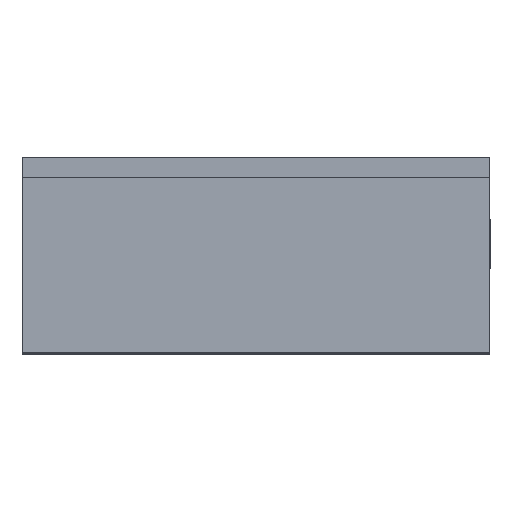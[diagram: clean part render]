
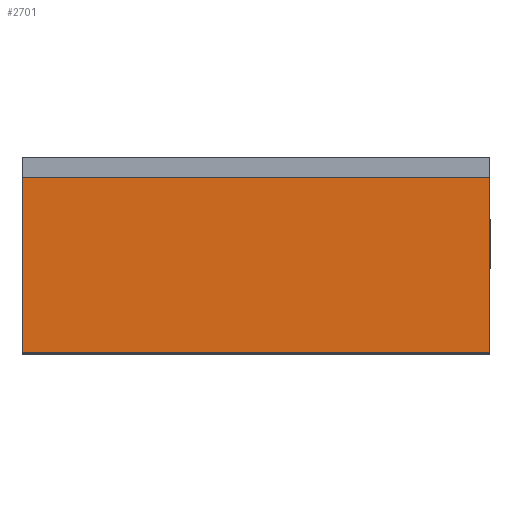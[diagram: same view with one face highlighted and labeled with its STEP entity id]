
A CAD part, top view. The second image highlights one B-rep face of the part: STEP entity #2701.
In plain terms, the highlighted planar face has unit normal (0, 0, 1).
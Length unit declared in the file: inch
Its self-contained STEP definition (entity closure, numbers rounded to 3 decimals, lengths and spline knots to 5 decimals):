
#250=FACE_OUTER_BOUND('',#404,.T.);
#404=EDGE_LOOP('',(#1798,#1799,#1800,#1801));
#570=LINE('',#3418,#844);
#571=LINE('',#3420,#845);
#572=LINE('',#3422,#846);
#573=LINE('',#3423,#847);
#844=VECTOR('',#2968,0.3937);
#845=VECTOR('',#2969,0.3937);
#846=VECTOR('',#2970,0.3937);
#847=VECTOR('',#2971,0.3937);
#1118=VERTEX_POINT('',#3416);
#1119=VERTEX_POINT('',#3417);
#1120=VERTEX_POINT('',#3419);
#1121=VERTEX_POINT('',#3421);
#1390=EDGE_CURVE('',#1118,#1119,#570,.T.);
#1391=EDGE_CURVE('',#1120,#1118,#571,.T.);
#1392=EDGE_CURVE('',#1120,#1121,#572,.T.);
#1393=EDGE_CURVE('',#1121,#1119,#573,.T.);
#1798=ORIENTED_EDGE('',*,*,#1390,.F.);
#1799=ORIENTED_EDGE('',*,*,#1391,.F.);
#1800=ORIENTED_EDGE('',*,*,#1392,.T.);
#1801=ORIENTED_EDGE('',*,*,#1393,.T.);
#2614=PLANE('',#2877);
#2701=ADVANCED_FACE('',(#250),#2614,.F.);
#2877=AXIS2_PLACEMENT_3D('',#3415,#2966,#2967);
#2966=DIRECTION('center_axis',(0.,0.,-1.));
#2967=DIRECTION('ref_axis',(0.,-1.,0.));
#2968=DIRECTION('',(0.,1.,0.));
#2969=DIRECTION('',(-1.,0.,0.));
#2970=DIRECTION('',(0.,1.,0.));
#2971=DIRECTION('',(-1.,0.,0.));
#3415=CARTESIAN_POINT('Origin',(0.0315,0.0189,0.06309));
#3416=CARTESIAN_POINT('',(-0.0315,-0.00472,0.06309));
#3417=CARTESIAN_POINT('',(-0.0315,0.0189,0.06309));
#3418=CARTESIAN_POINT('',(-0.0315,0.01299,0.06309));
#3419=CARTESIAN_POINT('',(0.0315,-0.00472,0.06309));
#3420=CARTESIAN_POINT('',(0.0315,-0.00472,0.06309));
#3421=CARTESIAN_POINT('',(0.0315,0.0189,0.06309));
#3422=CARTESIAN_POINT('',(0.0315,-0.00472,0.06309));
#3423=CARTESIAN_POINT('',(0.0315,0.0189,0.06309));
